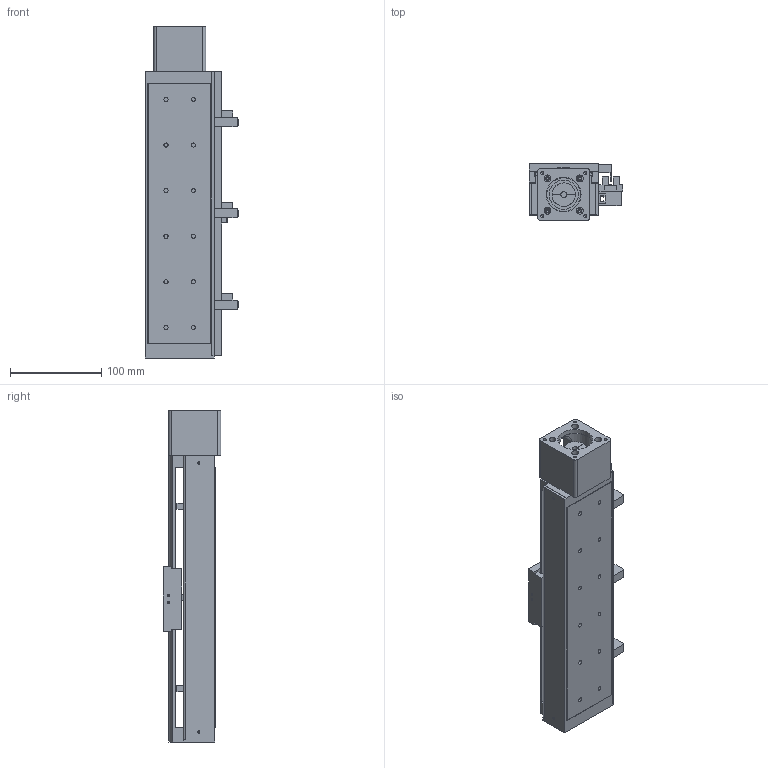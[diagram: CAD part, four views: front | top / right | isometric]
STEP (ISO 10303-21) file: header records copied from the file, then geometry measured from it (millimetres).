
FILE_DESCRIPTION((''),'2;1');
FILE_NAME('E:\uia actuator\UIA actuator 3d- 2009\Standard ball screw actuator\UIA076R9DC\UIA076R9DC-STEP file\with motor mount\UIA076R9DC step file 18Apr16\UIA076R9DC-200-R1205(or R1210)-M23-P13-C10-S.stp','2016-04-18T17:27:48',('h029'),(''),'Autodesk Inventor 11','Autodesk Inventor 11','');
FILE_SCHEMA(('AUTOMOTIVE_DESIGN { 1 0 10303 214 1 1 1 1 }'));
Length unit declared in the file: millimetre
Products named in the file (10): UIA076R9DC-200-R1205(or R1210)-M23-P13-C10-S; UIA076R9DC-200-BODY; UIA076R9DC-200-sensor rail; UIA076R9DC-CARRIAGE; UIA076R9DC-SENSOR FLAG; 01-100 0110 Motor MOUNT-M23; SOH-25C; SOH-25C-2; SOH-25C-3; SOH-25C-1
Assembly tree (9 placements, depth 3):
  UIA076R9DC-200-R1205(or R1210)-M23-P13-C10-S
    UIA076R9DC-200-BODY
    UIA076R9DC-200-sensor rail
    UIA076R9DC-CARRIAGE
    UIA076R9DC-SENSOR FLAG
    01-100 0110 Motor MOUNT-M23
    SOH-25C
      SOH-25C-2
      SOH-25C-3
      SOH-25C-1
Bounding box: 103 x 63 x 364 mm (x, y, z)
Volume: 624428.2 mm3; surface area: 239942.1 mm2
Topology: 8 solids, 8 shells, 416 faces, 1167 edges, 768 vertices
Faces by surface type: plane 287, cylinder 101, cone 21, bspline 7
Full cylindrical faces by diameter (mm): 2.459 x8, 3 x2, 3.242 x16, 3.5 x4, 4 x6, 4.5 x16, 6 x2, 7.5 x16, 22 x1, 25.5 x3, 32 x1, 37 x1, 38.1 x1
Entity records: 13282 total; most frequent: CARTESIAN_POINT 2644, DIRECTION 2106, ORIENTED_EDGE 2032, EDGE_CURVE 1016, VECTOR 760, LINE 760, VERTEX_POINT 721, AXIS2_PLACEMENT_3D 673
